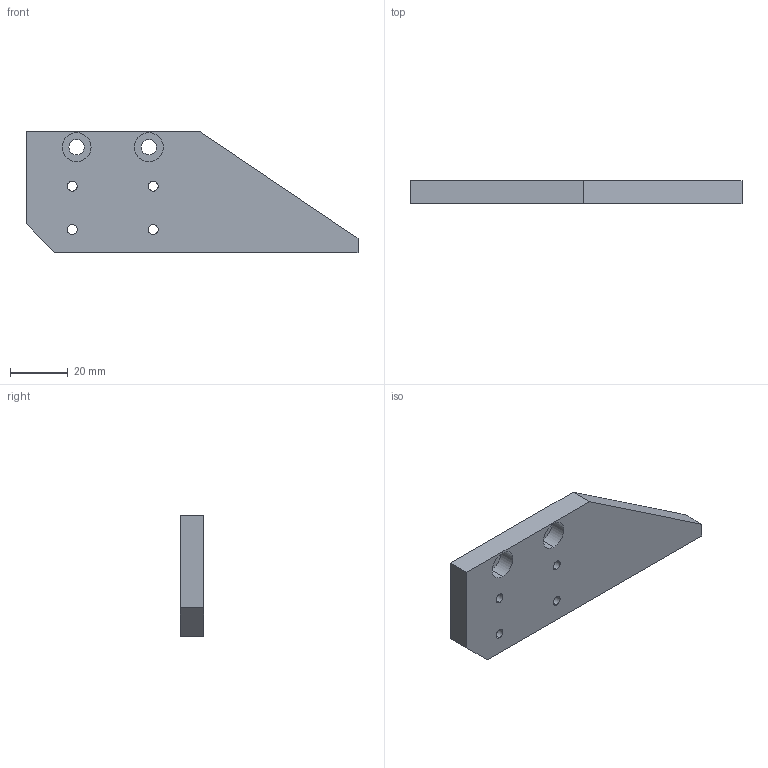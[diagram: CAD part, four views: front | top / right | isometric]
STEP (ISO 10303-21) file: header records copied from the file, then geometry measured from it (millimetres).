
FILE_DESCRIPTION (( 'STEP AP214' ), '1' );
FILE_NAME ('GZ29.09_V1导向块.STEP', '2021-05-07T06:54:57', ( '微软中国' ), ( 'Microsoft' ), 'SwSTEP 2.0', 'SolidWorks 2017', '' );
FILE_SCHEMA (( 'AUTOMOTIVE_DESIGN' ));
Length unit declared in the file: millimetre
Products named in the file (1): GZ29.09_V1絳砃輸
Bounding box: 114.85 x 8 x 42 mm (x, y, z)
Volume: 28524.3 mm3; surface area: 10502.2 mm2
Topology: 1 solids, 1 shells, 38 faces, 90 edges, 60 vertices
Faces by surface type: cylinder 24, plane 14
Entity records: 1180 total; most frequent: DIRECTION 216, CARTESIAN_POINT 189, ORIENTED_EDGE 180, EDGE_CURVE 90, AXIS2_PLACEMENT_3D 87, VERTEX_POINT 60, EDGE_LOOP 56, CIRCLE 48
